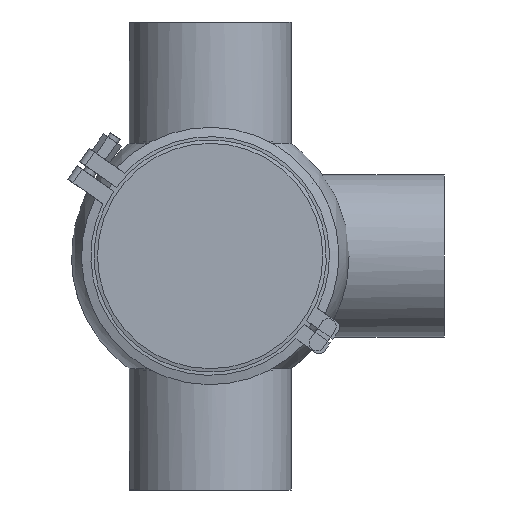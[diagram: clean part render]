
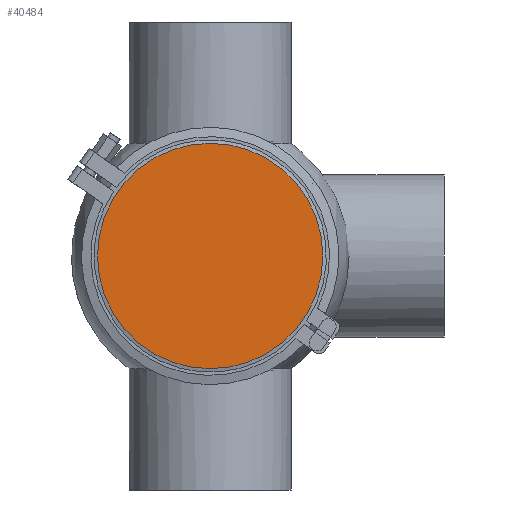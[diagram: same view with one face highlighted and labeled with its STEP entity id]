
A CAD part, front view. The second image highlights one B-rep face of the part: STEP entity #40484.
In plain terms, the highlighted planar face has unit normal (0, -1, 0).
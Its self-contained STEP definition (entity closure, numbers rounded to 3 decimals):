
#3765 = AXIS2_PLACEMENT_3D ( 'NONE', #35176, #48838, #54115 ) ;
#6510 = CARTESIAN_POINT ( 'NONE',  ( 0., 0., 0. ) ) ;
#8809 = ORIENTED_EDGE ( 'NONE', *, *, #51330, .F. ) ;
#10528 = PLANE ( 'NONE',  #3765 ) ;
#15486 = DIRECTION ( 'NONE',  ( 0., 1., 0. ) ) ;
#22424 = VERTEX_POINT ( 'NONE', #27453 ) ;
#25537 = FACE_OUTER_BOUND ( 'NONE', #46589, .T. ) ;
#26605 = AXIS2_PLACEMENT_3D ( 'NONE', #6510, #15486, #39850 ) ;
#27453 = CARTESIAN_POINT ( 'NONE',  ( 0., 0., 72.25 ) ) ;
#31559 = CIRCLE ( 'NONE', #26605, 72.25 ) ;
#35176 = CARTESIAN_POINT ( 'NONE',  ( -72.25, 0., 0. ) ) ;
#39850 = DIRECTION ( 'NONE',  ( 0., 0., 1. ) ) ;
#40484 = ADVANCED_FACE ( 'NONE', ( #25537 ), #10528, .T. ) ;
#46589 = EDGE_LOOP ( 'NONE', ( #8809 ) ) ;
#48838 = DIRECTION ( 'NONE',  ( 0., -1., 0. ) ) ;
#51330 = EDGE_CURVE ( 'NONE', #22424, #22424, #31559, .T. ) ;
#54115 = DIRECTION ( 'NONE',  ( 0., 0., -1. ) ) ;
